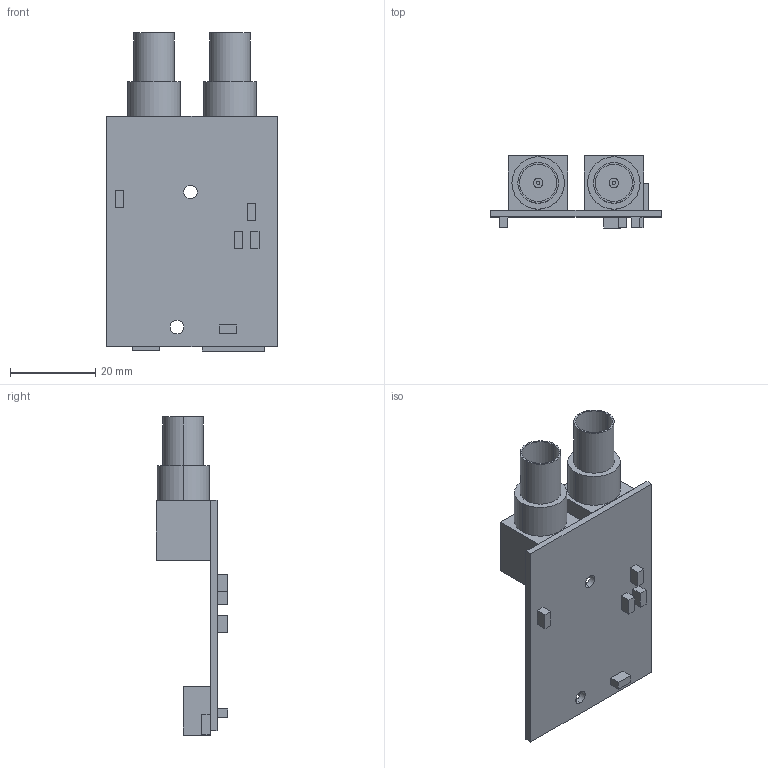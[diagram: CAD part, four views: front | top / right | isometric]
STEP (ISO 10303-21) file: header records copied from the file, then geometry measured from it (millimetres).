
FILE_DESCRIPTION (( 'STEP AP203' ), '1' );
FILE_NAME ('Assy PCB HD-SDI Black Magic Design BMDPCB416B1.STEP', '2019-12-15T23:49:29', ( '' ), ( '' ), 'SwSTEP 2.0', 'SolidWorks 2019', '' );
FILE_SCHEMA (( 'CONFIG_CONTROL_DESIGN' ));
Length unit declared in the file: inch
Products named in the file (1): Assy PCB HD-SDI Black Magic Design BMDPCB416B1
Bounding box: 40.13 x 16.83 x 74.71 mm (x, y, z)
Volume: 11698.1 mm3; surface area: 8746 mm2
Topology: 1 solids, 1 shells, 87 faces, 200 edges, 132 vertices
Faces by surface type: plane 63, cylinder 24
Entity records: 2537 total; most frequent: DIRECTION 424, CARTESIAN_POINT 420, ORIENTED_EDGE 400, EDGE_CURVE 200, LINE 152, VECTOR 152, AXIS2_PLACEMENT_3D 136, VERTEX_POINT 132
